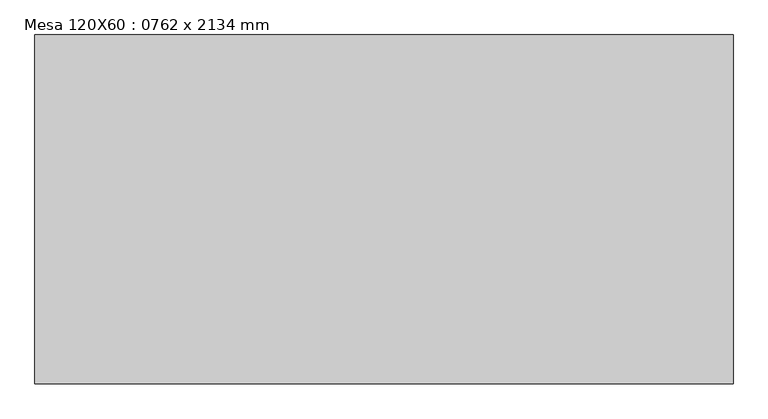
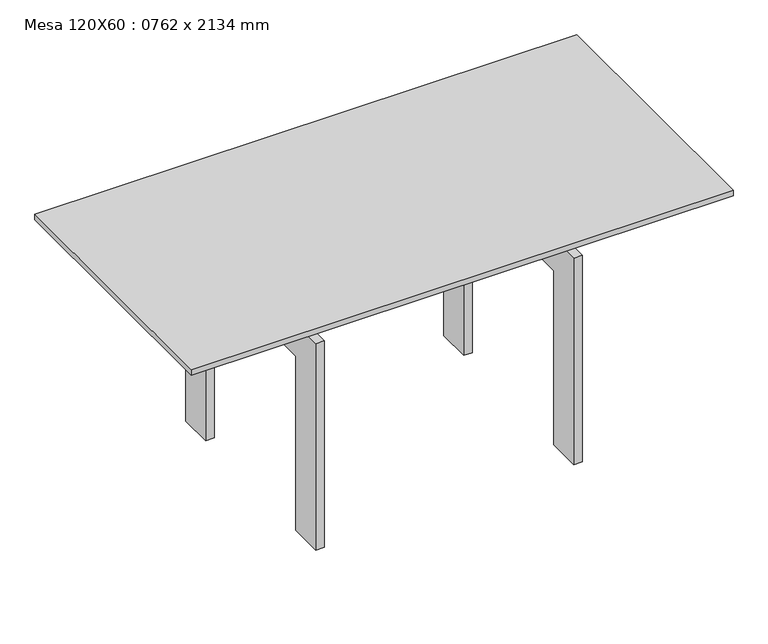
"""IFC4 building model written with IfcOpenShell, lengths in millimetres: furniture geometry, Mesa 120X60 : 0762 x 2134 mm."""

from ifc_helpers import new_model, si_unit, frame, origin, place, context, project, spatial, polyline, outline, extrude, source, transform, mapped, element, save


def mesa_120x60_0762_x_2134_mm_fea23668(model_context):
    return source(origin(), model_context, "Body", "SweptSolid", [
        extrude(outline(polyline([(516.6657667, 297.7823857), (516.6657667, 272.3823857), (-480.1342333, 272.3823857), (-480.1342333, 297.7823857), (516.6657667, 297.7823857)])), frame((0.0, 0.0, 483.8), z_axis=(0.0, 0.0, 1.0), x_axis=(1.0, 0.0, 0.0)), (0.0, 0.0, 1.0), 63.5),
        extrude(outline(polyline([(516.6657667, -82.5889222), (516.6657667, -107.9889222), (-480.1342333, -107.9889222), (-480.1342333, -82.5889222), (516.6657667, -82.5889222)])), frame((0.0, 0.0, 483.8), z_axis=(0.0, 0.0, 1.0), x_axis=(1.0, 0.0, 0.0)), (0.0, 0.0, 1.0), 63.5),
        extrude(outline(polyline([(344.4110778, 0.0), (268.2110778, 0.0), (268.2110778, 407.6), (-77.7889222, 407.6), (-77.7889222, 0.0), (-153.9889222, 0.0), (-153.9889222, 483.8), (344.4110778, 483.8), (344.4110778, 0.0)])), frame((294.4157667, 0.0, 0.0), z_axis=(1.0, 0.0, 0.0), x_axis=(0.0, 1.0, 0.0)), (0.0, 0.0, 1.0), 19.05),
        extrude(outline(polyline([(344.4110778, 483.8), (344.4110778, 0.0), (268.2110778, 0.0), (268.2110778, 407.6), (-77.7889222, 407.6), (-77.7889222, 0.0), (-153.9889222, 0.0), (-153.9889222, 483.8), (344.4110778, 483.8)])), frame((-276.9342333, 0.0, 0.0), z_axis=(1.0, 0.0, 0.0), x_axis=(0.0, 1.0, 0.0)), (0.0, 0.0, 1.0), 19.05),
        extrude(outline(polyline([(618.2657667, 395.2110778), (618.2657667, -204.7889222), (-581.7342333, -204.7889222), (-581.7342333, 395.2110778), (618.2657667, 395.2110778)])), frame((0.0, 0.0, 547.3), z_axis=(0.0, 0.0, 1.0), x_axis=(1.0, 0.0, 0.0)), (0.0, 0.0, 1.0), 12.7),
    ])


if __name__ == "__main__":
    model = new_model("IFC4")
    model_context = context("Model", 3, world=origin())
    ifc_project = project(units=[si_unit("LENGTHUNIT", "METRE", prefix="MILLI")], contexts=[model_context])
    site = spatial("IfcSite", under=ifc_project)
    building = spatial("IfcBuilding", under=site)
    placement = place(None, origin())
    mesa_120x60_0762_x_2134_mm_shape = mesa_120x60_0762_x_2134_mm_fea23668(model_context)
    element("IfcFurniture", 1, ObjectType="Mesa 120X60 : 0762 x 2134 mm", at=placement, inside=building, context=model_context, shape_type="MappedRepresentation", body=[
        mapped(mesa_120x60_0762_x_2134_mm_shape, transform((0.0, 0.0, 0.0), x_axis=(1.0, 0.0, 0.0), y_axis=(0.0, 1.0, 0.0), z_axis=(0.0, 0.0, 1.0))),
    ])
    save(model, "model.ifc")
